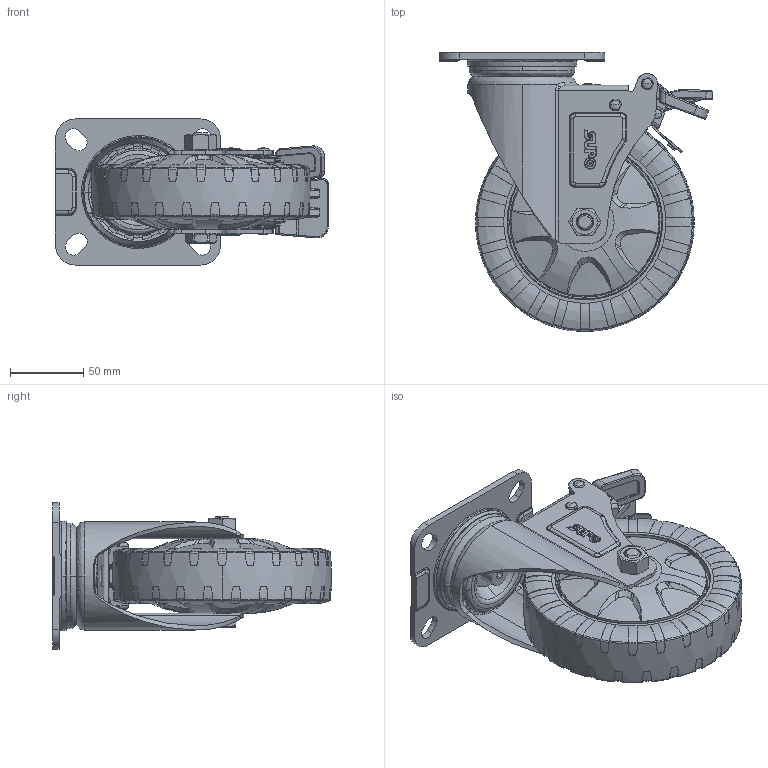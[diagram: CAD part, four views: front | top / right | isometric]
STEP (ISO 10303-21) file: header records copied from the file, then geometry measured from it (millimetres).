
FILE_DESCRIPTION (( 'STEP AP214' ), '1' );
FILE_NAME ('J05S-01D-150-352.STEP', '2025-10-01T10:03:21', ( '' ), ( '' ), 'SwSTEP 2.0', 'SolidWorks 2022', '' );
FILE_SCHEMA (( 'AUTOMOTIVE_DESIGN' ));
Length unit declared in the file: millimetre
Products named in the file (1): J05S-01D-150-352
Bounding box: 186.87 x 190.9 x 100 mm (x, y, z)
Volume: 664568.1 mm3; surface area: 344285.2 mm2
Topology: 20 solids, 20 shells, 5442 faces, 14993 edges, 9199 vertices
Faces by surface type: cylinder 2036, plane 1772, bspline 1537, cone 97
Entity records: 287035 total; most frequent: CARTESIAN_POINT 111956, ORIENTED_EDGE 28962, DIRECTION 16957, EDGE_CURVE 14481, VERTEX_POINT 9199, B_SPLINE_CURVE_WITH_KNOTS 7299, AXIS2_PLACEMENT_3D 6379, EDGE_LOOP 5626
